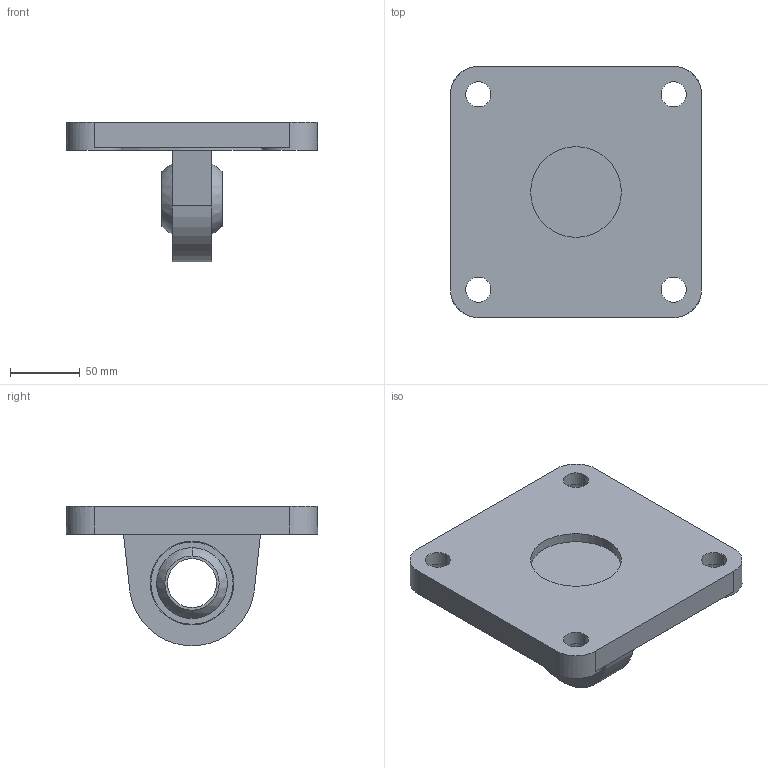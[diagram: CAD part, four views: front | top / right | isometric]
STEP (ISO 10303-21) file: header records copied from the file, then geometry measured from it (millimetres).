
FILE_DESCRIPTION((''),'2;1');
FILE_NAME('CMSS160.stp','2008-02-15T13:41:19',('BP'),('AZ PNEUMATICA S.r.l.'),'Mechanical Desktop 2006','Mechanical Desktop 2006','Via Marco Biagi 6, 20020 Misinto (MI) Italia, azpneu@tin.it');
FILE_SCHEMA(('CONFIG_CONTROL_DESIGN'));
Length unit declared in the file: millimetre
Products named in the file (2): USKE_CILINDRI3; USKA
Assembly tree (1 placements, depth 2):
  USKE_CILINDRI3
    USKA
Bounding box: 180 x 180 x 99.83 mm (x, y, z)
Volume: 747676.7 mm3; surface area: 103237.9 mm2
Topology: 1 solids, 1 shells, 62 faces, 144 edges, 96 vertices
Faces by surface type: cylinder 35, plane 23, sphere 4
Entity records: 1943 total; most frequent: DIRECTION 358, CARTESIAN_POINT 304, ORIENTED_EDGE 288, AXIS2_PLACEMENT_3D 150, EDGE_CURVE 144, VERTEX_POINT 96, CIRCLE 86, EDGE_LOOP 84
